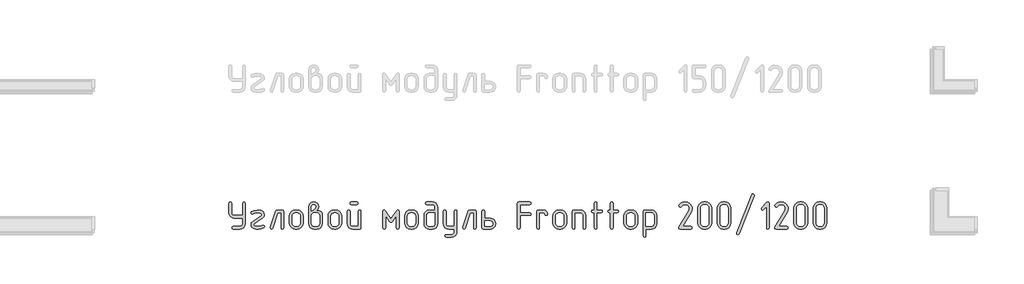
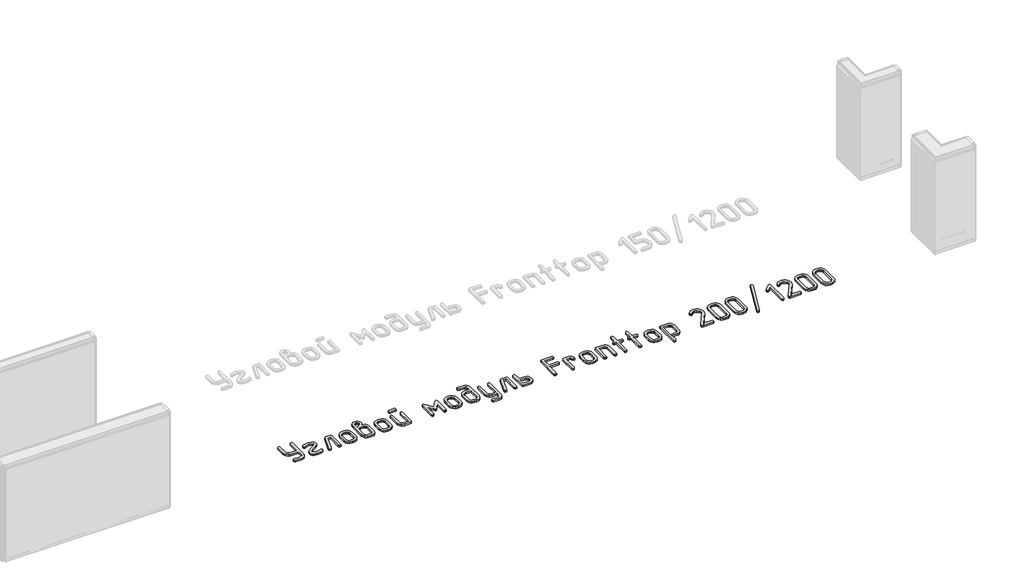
# One storey, part 23 of 37: 1 proxy.
"""IFC4 building model written with IfcOpenShell, lengths in millimetres."""

from ifc_helpers import new_model, si_unit, origin, origin_with_axes, place, context, project, spatial, polyline, outline, extrude, element, save

model = new_model("IFC4")

# Units and contexts
model_context = context("Model", 3, world=origin())
ifc_project = project(units=[si_unit("LENGTHUNIT", "METRE", prefix="MILLI")], contexts=[model_context])

# Site, building, storey
site = spatial("IfcSite", under=ifc_project)
building = spatial("IfcBuilding", under=site)
storey = spatial("IfcBuildingStorey", under=building, Name="Этаж 01", Elevation=0.0)

# Proxy
placement = place(None, origin())
element("IfcBuildingElementProxy", 1, Name="300 мм ГОСТ 2.304", ObjectType="300 мм ГОСТ 2.304", at=placement, inside=storey, context=model_context, shape_type="SweptSolid", body=[
    extrude(outline(polyline([(64282.5947081, -35608.7261154), (64192.9398643, -35608.7261154), (64169.869135, -35604.3522505), (64150.5152523, -35591.2306559), (64137.3936577, -35571.8767732), (64133.0197928, -35548.8060439), (64133.0197928, -35444.2838139), (64137.4124296, -35433.1332743), (64148.3377058, -35428.9659009), (64158.6247356, -35432.9080109), (64163.205092, -35444.2838139), (64163.205092, -35548.8060439), (64165.3357086, -35560.4540402), (64171.7275583, -35570.0183499), (64181.2918679, -35576.4101996), (64192.9398643, -35578.5408162), (64282.5947081, -35578.5408162), (64282.5947081, -35444.2838139), (64286.949801, -35433.1332743), (64297.4620942, -35428.9659009), (64307.9368436, -35432.9080109), (64312.3294804, -35444.2838139), (64312.3294804, -35668.19566), (64307.9556155, -35691.6042844), (64294.8340209, -35711.0707988), (64275.8180333, -35723.8544983), (64252.8599358, -35728.1157314), (64178.0724781, -35728.1157314), (64167.147202, -35723.7606385), (64163.205092, -35713.2483453), (64166.9219385, -35702.736052), (64178.0724781, -35698.3809591), (64252.8599358, -35698.3809591), (64264.2263528, -35696.1940267), (64273.8469783, -35689.6332294), (64280.4077756, -35679.8999722), (64282.5947081, -35668.19566), (64282.5947081, -35608.7261154)])), origin_with_axes(), (0.0, 0.0, 1.0), 20.0),
    extrude(outline(polyline([(64514.9914765, -35714.524838), (64485.4444237, -35725.0746752), (64451.6173658, -35728.5662583), (64430.8180428, -35727.4774851), (64413.0973199, -35724.5866044), (64396.8408093, -35719.4524755), (64384.8643037, -35709.3062353), (64377.4869265, -35695.6496401), (64375.0278008, -35679.984446), (64378.9699108, -35660.7619669), (64391.2467675, -35644.618088), (64486.5331969, -35578.991343), (64491.4139045, -35569.8306304), (64487.5844263, -35560.4071103), (64476.0959915, -35554.0621905), (64442.3815653, -35549.7070976), (64416.2510079, -35552.4290307), (64397.32888, -35560.5948299), (64388.1681673, -35564.1239569), (64377.693418, -35559.5436005), (64373.3007812, -35548.355517), (64379.4579815, -35537.0172579), (64408.0664367, -35524.777945), (64445.0096386, -35520.4228521), (64450.2657853, -35520.4228521), (64479.1370478, -35523.9144352), (64501.85111, -35533.7509382), (64516.7184961, -35549.0313073), (64521.9746427, -35568.9295767), (64517.7134096, -35586.6315276), (64504.9297101, -35602.193476), (64409.5681929, -35668.19566), (64404.3871341, -35679.6090069), (64408.1039806, -35689.8584928), (64417.9029396, -35695.7528858), (64434.3096259, -35697.5174493), (64451.9928049, -35698.3809591), (64478.4612575, -35696.2034127), (64501.0251441, -35687.8686659), (64508.4588371, -35686.1416463), (64519.1588499, -35690.7220026), (64523.3262233, -35701.9100861), (64521.2425366, -35709.1936036), (64514.9914765, -35714.524838)])), origin_with_axes(), (0.0, 0.0, 1.0), 20.0),
    extrude(outline(polyline([(64734.3229662, -35713.2483453), (64730.1555928, -35724.3988849), (64719.45558, -35728.1157314), (64708.9432868, -35724.1736215), (64704.5881939, -35713.2483453), (64704.5881939, -35548.8060439), (64670.0478018, -35548.8060439), (64614.0322964, -35718.0539651), (64608.5884303, -35725.4876581), (64600.5164908, -35728.1157314), (64589.7789341, -35724.1736215), (64585.1985778, -35713.6988721), (64586.0996315, -35708.4427255), (64645.1186493, -35529.133038), (64650.4498837, -35521.5867132), (64659.5355086, -35519.0712716), (64719.45558, -35519.0712716), (64730.6061197, -35522.7881181), (64734.3229662, -35533.9386577), (64734.3229662, -35713.2483453)])), origin_with_axes(), (0.0, 0.0, 1.0), 20.0),
    extrude(outline(polyline([(64945.7702359, -35662.4889865), (64940.9646162, -35687.9812976), (64926.5477569, -35709.3437792), (64905.5231704, -35723.4227434), (64880.143491, -35728.1157314), (64862.1975047, -35728.1157314), (64836.7615094, -35723.4227434), (64815.4177998, -35709.3437792), (64801.0009405, -35687.9812976), (64796.1953207, -35662.4889865), (64796.1953207, -35584.6980165), (64801.0009405, -35559.5436005), (64815.4177998, -35538.2937506), (64837.1744924, -35523.8768913), (64862.1975047, -35519.0712716), (64880.143491, -35519.0712716), (64905.288521, -35523.8862773), (64926.510213, -35538.3312945), (64940.9552302, -35559.5529865), (64945.7702359, -35584.6980165), (64945.7702359, -35662.4889865)]), holes=[polyline([(64916.0354636, -35662.4889865), (64916.0354636, -35584.6980165), (64913.4073903, -35570.9194036), (64905.5231704, -35559.3183371), (64893.9221039, -35551.4341172), (64880.143491, -35548.8060439), (64862.1975047, -35548.8060439), (64848.4282777, -35551.4341172), (64836.8553692, -35559.3183371), (64828.9993072, -35570.9194036), (64826.3806199, -35584.6980165), (64826.3806199, -35662.4889865), (64828.9993072, -35676.2675994), (64836.8553692, -35687.8686659), (64848.4282777, -35695.7528858), (64862.1975047, -35698.3809591), (64880.143491, -35698.3809591), (64893.9221039, -35695.7528858), (64905.5231704, -35687.8686659), (64913.4073903, -35676.2675994), (64916.0354636, -35662.4889865)])]), origin_with_axes(), (0.0, 0.0, 1.0), 20.0),
    extrude(outline(polyline([(65097.2974342, -35519.9723253), (65122.7897453, -35524.2335584), (65142.3501195, -35537.0172579), (65153.5006592, -35555.057104), (65157.2175057, -35578.5408162), (65157.2175057, -35668.19566), (65152.8436408, -35691.6042844), (65139.7220462, -35711.0707988), (65120.5934269, -35723.8544983), (65097.2974342, -35728.1157314), (65067.5626619, -35728.1157314), (65044.4919326, -35723.8544983), (65025.1380499, -35711.0707988), (65012.0164553, -35691.6042844), (65007.6425905, -35668.19566), (65007.6425905, -35483.2543867), (65011.9038236, -35460.3901489), (65024.6875231, -35442.5567943), (65041.4133325, -35432.3636243), (65061.8559884, -35428.9659009), (65081.9607493, -35432.3636243), (65098.573927, -35442.5567943), (65111.0760472, -35460.2775172), (65115.2434206, -35482.8038599), (65111.0760472, -35504.8421318), (65097.2974342, -35519.9723253)]), holes=[polyline([(65127.4827334, -35668.19566), (65127.4827334, -35578.5408162), (65125.295801, -35567.1743991), (65118.7350037, -35557.5537736), (65109.0017464, -35550.9929763), (65097.2974342, -35548.8060439), (65067.5626619, -35548.8060439), (65055.9146656, -35550.9929763), (65046.3503559, -35557.5537736), (65039.9585062, -35567.1743991), (65037.8278896, -35578.5408162), (65037.8278896, -35668.19566), (65039.9585062, -35679.8999722), (65046.3503559, -35689.6332294), (65055.9146656, -35696.1940267), (65067.5626619, -35698.3809591), (65097.2974342, -35698.3809591), (65109.0017464, -35696.1940267), (65118.7350037, -35689.6332294), (65125.295801, -35679.8999722), (65127.4827334, -35668.19566)]), polyline([(65037.8278896, -35529.133038), (65044.8110558, -35525.0032085), (65050.0672025, -35521.248818), (65060.1289688, -35514.0403884), (65067.5626619, -35508.5589783), (65079.8019748, -35497.671246), (65085.5086482, -35483.2543867), (65083.7065408, -35473.1644624), (65078.3002186, -35465.7213834), (65070.4723145, -35461.1316411), (65061.4054616, -35459.601727), (65052.4512404, -35461.1316411), (65044.8110558, -35465.7213834), (65039.5736812, -35473.1644624), (65037.8278896, -35483.2543867), (65037.8278896, -35529.133038)])]), origin_with_axes(), (0.0, 0.0, 1.0), 20.0),
    extrude(outline(polyline([(65368.6647755, -35662.4889865), (65363.8591557, -35687.9812976), (65349.4422964, -35709.3437792), (65328.4177099, -35723.4227434), (65303.0380305, -35728.1157314), (65285.0920442, -35728.1157314), (65259.6560489, -35723.4227434), (65238.3123393, -35709.3437792), (65223.89548, -35687.9812976), (65219.0898602, -35662.4889865), (65219.0898602, -35584.6980165), (65223.89548, -35559.5436005), (65238.3123393, -35538.2937506), (65260.0690319, -35523.8768913), (65285.0920442, -35519.0712716), (65303.0380305, -35519.0712716), (65328.1830605, -35523.8862773), (65349.4047525, -35538.3312945), (65363.8497697, -35559.5529865), (65368.6647755, -35584.6980165), (65368.6647755, -35662.4889865)]), holes=[polyline([(65338.9300032, -35662.4889865), (65338.9300032, -35584.6980165), (65336.3019298, -35570.9194036), (65328.4177099, -35559.3183371), (65316.8166434, -35551.4341172), (65303.0380305, -35548.8060439), (65285.0920442, -35548.8060439), (65271.3228172, -35551.4341172), (65259.7499087, -35559.3183371), (65251.8938467, -35570.9194036), (65249.2751594, -35584.6980165), (65249.2751594, -35662.4889865), (65251.8938467, -35676.2675994), (65259.7499087, -35687.8686659), (65271.3228172, -35695.7528858), (65285.0920442, -35698.3809591), (65303.0380305, -35698.3809591), (65316.8166434, -35695.7528858), (65328.4177099, -35687.8686659), (65336.3019298, -35676.2675994), (65338.9300032, -35662.4889865)])]), origin_with_axes(), (0.0, 0.0, 1.0), 20.0),
    extrude(outline(polyline([(65535.5098868, -35459.1512001), (65475.5898153, -35459.1512001), (65464.6645391, -35454.7961072), (65460.7224291, -35444.2838139), (65464.4392757, -35433.5838012), (65475.5898153, -35428.9659009), (65535.5098868, -35428.9659009), (65546.6604264, -35433.3585378), (65550.3772729, -35444.2838139), (65546.4351629, -35454.5708438), (65535.5098868, -35459.1512001)])), origin_with_axes(), (0.0, 0.0, 1.0), 20.0),
    extrude(outline(polyline([(65580.1120452, -35713.2483453), (65576.3951987, -35724.3988849), (65565.2446591, -35728.1157314), (65490.4572014, -35728.1157314), (65467.3864722, -35723.8544983), (65448.0325894, -35711.0707988), (65434.9109948, -35691.6042844), (65430.53713, -35668.19566), (65430.53713, -35533.9386577), (65434.9297668, -35523.0133815), (65445.855043, -35519.0712716), (65456.1420728, -35522.7881181), (65460.7224291, -35533.9386577), (65460.7224291, -35668.19566), (65462.8530457, -35679.8999722), (65469.2448954, -35689.6332294), (65478.8092051, -35696.1940267), (65490.4572014, -35698.3809591), (65550.3772729, -35698.3809591), (65550.3772729, -35533.9386577), (65554.7323658, -35523.0133815), (65565.2446591, -35519.0712716), (65575.7194084, -35522.7881181), (65580.1120452, -35533.9386577), (65580.1120452, -35713.2483453)])), origin_with_axes(), (0.0, 0.0, 1.0), 20.0),
    extrude(outline(polyline([(65999.1020187, -35713.2483453), (65994.7093818, -35724.1736215), (65984.2346325, -35728.1157314), (65973.4970758, -35724.3988849), (65969.3672464, -35713.2483453), (65969.3672464, -35580.2678358), (65921.6864877, -35647.2461613), (65915.5480594, -35653.1030104), (65909.4471749, -35655.0552934), (65903.121027, -35653.1030104), (65897.207862, -35647.2461613), (65849.9776303, -35580.2678358), (65849.9776303, -35713.2483453), (65845.3972739, -35724.1736215), (65835.1102441, -35728.1157314), (65823.9597045, -35724.3988849), (65819.7923311, -35713.2483453), (65819.7923311, -35533.9386577), (65823.5091776, -35521.0235546), (65832.9326977, -35516.4431983), (65840.666742, -35518.6395167), (65847.349557, -35525.2284719), (65909.4471749, -35612.6306814), (65971.9953197, -35525.2284719), (65978.7532225, -35518.6395167), (65985.9616521, -35516.4431983), (65995.3851721, -35521.0235546), (65999.1020187, -35533.9386577), (65999.1020187, -35713.2483453)])), origin_with_axes(), (0.0, 0.0, 1.0), 20.0),
    extrude(outline(polyline([(66209.6482347, -35662.4889865), (66204.8426149, -35687.9812976), (66190.4257556, -35709.3437792), (66169.4011692, -35723.4227434), (66144.0214898, -35728.1157314), (66126.0755035, -35728.1157314), (66100.6395082, -35723.4227434), (66079.2957985, -35709.3437792), (66064.8789392, -35687.9812976), (66060.0733195, -35662.4889865), (66060.0733195, -35584.6980165), (66064.8789392, -35559.5436005), (66079.2957985, -35538.2937506), (66101.0524911, -35523.8768913), (66126.0755035, -35519.0712716), (66144.0214898, -35519.0712716), (66169.1665198, -35523.8862773), (66190.3882117, -35538.3312945), (66204.833229, -35559.5529865), (66209.6482347, -35584.6980165), (66209.6482347, -35662.4889865)]), holes=[polyline([(66179.9134624, -35662.4889865), (66179.9134624, -35584.6980165), (66177.2853891, -35570.9194036), (66169.4011692, -35559.3183371), (66157.8001027, -35551.4341172), (66144.0214898, -35548.8060439), (66126.0755035, -35548.8060439), (66112.3062765, -35551.4341172), (66100.733368, -35559.3183371), (66092.877306, -35570.9194036), (66090.2586186, -35584.6980165), (66090.2586186, -35662.4889865), (66092.877306, -35676.2675994), (66100.733368, -35687.8686659), (66112.3062765, -35695.7528858), (66126.0755035, -35698.3809591), (66144.0214898, -35698.3809591), (66157.8001027, -35695.7528858), (66169.4011692, -35687.8686659), (66177.2853891, -35676.2675994), (66179.9134624, -35662.4889865)])]), origin_with_axes(), (0.0, 0.0, 1.0), 20.0),
    extrude(outline(polyline([(66391.3607322, -35519.0712716), (66391.3607322, -35488.8859724), (66389.1737997, -35477.2379761), (66382.6130024, -35467.6736664), (66372.8797452, -35461.2818167), (66361.175433, -35459.1512001), (66301.7058884, -35459.1512001), (66290.7806122, -35454.7961072), (66286.8385022, -35444.2838139), (66290.5553488, -35433.5838012), (66301.7058884, -35428.9659009), (66361.175433, -35428.9659009), (66384.4714257, -35433.3397658), (66403.600045, -35446.4613604), (66416.7216396, -35465.8152431), (66421.0955045, -35488.8859724), (66421.0955045, -35668.19566), (66416.7216396, -35691.6042844), (66403.600045, -35711.0707988), (66384.4714257, -35723.8544983), (66361.175433, -35728.1157314), (66331.4406607, -35728.1157314), (66308.3699314, -35723.8544983), (66289.0160487, -35711.0707988), (66275.8944541, -35691.6042844), (66271.5205892, -35668.19566), (66271.5205892, -35578.5408162), (66275.8944541, -35555.8079821), (66289.0160487, -35536.566731), (66308.3699314, -35523.4451364), (66331.4406607, -35519.0712716), (66391.3607322, -35519.0712716)]), holes=[polyline([(66391.3607322, -35548.8060439), (66331.4406607, -35548.8060439), (66319.7926643, -35550.9929763), (66310.2283547, -35557.5537736), (66303.836505, -35567.1743991), (66301.7058884, -35578.5408162), (66301.7058884, -35668.19566), (66303.836505, -35679.8999722), (66310.2283547, -35689.6332294), (66319.7926643, -35696.1940267), (66331.4406607, -35698.3809591), (66361.175433, -35698.3809591), (66372.8797452, -35696.1940267), (66382.6130024, -35689.6332294), (66389.1737997, -35679.8999722), (66391.3607322, -35668.19566), (66391.3607322, -35548.8060439)])]), origin_with_axes(), (0.0, 0.0, 1.0), 20.0),
    extrude(outline(polyline([(66602.8080019, -35728.1157314), (66542.8879304, -35728.1157314), (66519.8172012, -35723.8544983), (66500.4633184, -35711.0707988), (66487.3417238, -35691.6042844), (66482.967859, -35668.19566), (66482.967859, -35533.9386577), (66487.3604958, -35523.0133815), (66498.285772, -35519.0712716), (66508.5728018, -35522.7881181), (66513.1531581, -35533.9386577), (66513.1531581, -35668.19566), (66515.2837747, -35679.8999722), (66521.6756244, -35689.6332294), (66531.2399341, -35696.1940267), (66542.8879304, -35698.3809591), (66602.8080019, -35698.3809591), (66602.8080019, -35533.9386577), (66607.1630948, -35523.0133815), (66617.6753881, -35519.0712716), (66628.1501374, -35522.7881181), (66632.5427742, -35533.9386577), (66632.5427742, -35757.8505038), (66628.2815411, -35781.1464965), (66615.4978416, -35800.2751158), (66596.0313272, -35813.3967104), (66572.6227028, -35817.7705752), (66513.1531581, -35817.7705752), (66502.2278819, -35813.3779384), (66498.285772, -35802.9031891), (66502.0026185, -35792.3908958), (66513.1531581, -35788.0358029), (66572.6227028, -35788.0358029), (66584.327015, -35785.8488705), (66594.0602722, -35779.2880732), (66600.6210695, -35769.554816), (66602.8080019, -35757.8505038), (66602.8080019, -35728.1157314)])), origin_with_axes(), (0.0, 0.0, 1.0), 20.0),
    extrude(outline(polyline([(66843.990044, -35713.2483453), (66839.8226706, -35724.3988849), (66829.1226578, -35728.1157314), (66818.6103646, -35724.1736215), (66814.2552717, -35713.2483453), (66814.2552717, -35548.8060439), (66779.7148796, -35548.8060439), (66723.6993742, -35718.0539651), (66718.255508, -35725.4876581), (66710.1835686, -35728.1157314), (66699.4460119, -35724.1736215), (66694.8656556, -35713.6988721), (66695.7667093, -35708.4427255), (66754.7857271, -35529.133038), (66760.1169615, -35521.5867132), (66769.2025864, -35519.0712716), (66829.1226578, -35519.0712716), (66840.2731974, -35522.7881181), (66843.990044, -35533.9386577), (66843.990044, -35713.2483453)])), origin_with_axes(), (0.0, 0.0, 1.0), 20.0),
    extrude(outline(polyline([(66936.0476976, -35608.7261154), (66995.5172423, -35608.7261154), (67021.0095534, -35613.3252436), (67040.5699276, -35627.1226285), (67051.7204672, -35645.4628258), (67055.4373137, -35668.19566), (67051.8330989, -35690.9472661), (67041.0204544, -35709.3437792), (67021.1221851, -35723.4227434), (66995.5172423, -35728.1157314), (66921.1803115, -35728.1157314), (66909.6918767, -35724.3988849), (66905.8623985, -35713.2483453), (66905.8623985, -35533.9386577), (66910.2550353, -35523.0133815), (66921.1803115, -35519.0712716), (66931.4673413, -35522.7881181), (66936.0476976, -35533.9386577), (66936.0476976, -35608.7261154)]), holes=[polyline([(66936.0476976, -35638.4608877), (66936.0476976, -35698.3809591), (66995.5172423, -35698.3809591), (67008.3009417, -35696.1377108), (67017.8183215, -35689.407966), (67023.7314864, -35679.6183929), (67025.7025414, -35668.19566), (67023.8441182, -35657.1577521), (67018.2688483, -35647.6216003), (67008.6388369, -35640.7510658), (66995.5172423, -35638.4608877), (66936.0476976, -35638.4608877)])]), origin_with_axes(), (0.0, 0.0, 1.0), 20.0),
    extrude(outline(polyline([(67325.3028988, -35548.355517), (67429.8251287, -35548.355517), (67440.9756683, -35552.5228904), (67444.6925149, -35563.2229032), (67440.7504049, -35573.9604598), (67429.8251287, -35578.5408162), (67325.3028988, -35578.5408162), (67325.3028988, -35713.2483453), (67321.1355254, -35724.3988849), (67310.4355126, -35728.1157314), (67299.697956, -35724.1736215), (67295.1175996, -35713.2483453), (67295.1175996, -35444.2838139), (67298.9470779, -35432.7953792), (67310.4355126, -35428.9659009), (67429.8251287, -35428.9659009), (67440.9756683, -35433.3585378), (67444.6925149, -35444.2838139), (67440.7504049, -35454.5708438), (67429.8251287, -35459.1512001), (67325.3028988, -35459.1512001), (67325.3028988, -35548.355517)])), origin_with_axes(), (0.0, 0.0, 1.0), 20.0),
    extrude(outline(polyline([(67626.4050123, -35563.67343), (67622.2376389, -35574.8239697), (67611.5376262, -35578.5408162), (67600.8000695, -35574.5987062), (67596.2197132, -35563.67343), (67592.0523398, -35553.1986807), (67581.352327, -35548.8060439), (67536.7501685, -35548.8060439), (67536.7501685, -35713.2483453), (67532.5827951, -35724.3988849), (67521.8827824, -35728.1157314), (67511.1452257, -35724.1736215), (67506.5648694, -35713.2483453), (67506.5648694, -35533.9386577), (67510.3943476, -35522.7881181), (67521.8827824, -35519.0712716), (67581.352327, -35519.0712716), (67598.8477865, -35522.5628547), (67613.3021897, -35532.1740942), (67622.9134292, -35546.403234), (67626.4050123, -35563.67343)])), origin_with_axes(), (0.0, 0.0, 1.0), 20.0),
    extrude(outline(polyline([(67833.947716, -35662.4889865), (67829.1420963, -35687.9812976), (67814.7252369, -35709.3437792), (67793.7006505, -35723.4227434), (67768.3209711, -35728.1157314), (67750.3749848, -35728.1157314), (67724.9389895, -35723.4227434), (67703.5952798, -35709.3437792), (67689.1784205, -35687.9812976), (67684.3728008, -35662.4889865), (67684.3728008, -35584.6980165), (67689.1784205, -35559.5436005), (67703.5952798, -35538.2937506), (67725.3519725, -35523.8768913), (67750.3749848, -35519.0712716), (67768.3209711, -35519.0712716), (67793.4660011, -35523.8862773), (67814.687693, -35538.3312945), (67829.1327103, -35559.5529865), (67833.947716, -35584.6980165), (67833.947716, -35662.4889865)]), holes=[polyline([(67804.2129437, -35662.4889865), (67804.2129437, -35584.6980165), (67801.5848704, -35570.9194036), (67793.7006505, -35559.3183371), (67782.099584, -35551.4341172), (67768.3209711, -35548.8060439), (67750.3749848, -35548.8060439), (67736.6057578, -35551.4341172), (67725.0328493, -35559.3183371), (67717.1767873, -35570.9194036), (67714.5580999, -35584.6980165), (67714.5580999, -35662.4889865), (67717.1767873, -35676.2675994), (67725.0328493, -35687.8686659), (67736.6057578, -35695.7528858), (67750.3749848, -35698.3809591), (67768.3209711, -35698.3809591), (67782.099584, -35695.7528858), (67793.7006505, -35687.8686659), (67801.5848704, -35676.2675994), (67804.2129437, -35662.4889865)])]), origin_with_axes(), (0.0, 0.0, 1.0), 20.0),
    extrude(outline(polyline([(68045.3949858, -35713.2483453), (68041.2276124, -35724.3988849), (68030.5275996, -35728.1157314), (68020.0153064, -35724.1736215), (68015.6602135, -35713.2483453), (68015.6602135, -35578.5408162), (68013.473281, -35567.1743991), (68006.9124837, -35557.5537736), (67997.1792265, -35550.9929763), (67985.4749143, -35548.8060439), (67926.0053697, -35548.8060439), (67926.0053697, -35713.2483453), (67921.8379963, -35724.3988849), (67911.1379835, -35728.1157314), (67900.4004269, -35724.1736215), (67895.8200705, -35713.2483453), (67895.8200705, -35533.9386577), (67899.6495488, -35522.7881181), (67911.1379835, -35519.0712716), (67985.4749143, -35519.0712716), (68008.770907, -35523.3325047), (68027.8995263, -35536.1162042), (68041.0211209, -35555.4700869), (68045.3949858, -35578.5408162), (68045.3949858, -35713.2483453)])), origin_with_axes(), (0.0, 0.0, 1.0), 20.0),
    extrude(outline(polyline([(68167.1874117, -35519.0712716), (68212.2400971, -35519.0712716), (68223.3906367, -35523.238645), (68227.1074832, -35533.9386577), (68223.1653733, -35544.2256875), (68212.2400971, -35548.8060439), (68167.1874117, -35548.8060439), (68167.1874117, -35713.2483453), (68163.0200384, -35724.3988849), (68152.3200256, -35728.1157314), (68141.8077324, -35724.1736215), (68137.4526394, -35713.2483453), (68137.4526394, -35548.8060439), (68122.5852533, -35548.8060439), (68111.4347137, -35544.450951), (68107.2673403, -35533.9386577), (68111.2094502, -35523.4639084), (68122.5852533, -35519.0712716), (68137.4526394, -35519.0712716), (68137.4526394, -35444.2838139), (68141.8077324, -35433.1332743), (68152.3200256, -35428.9659009), (68162.7947749, -35432.9080109), (68167.1874117, -35444.2838139), (68167.1874117, -35519.0712716)])), origin_with_axes(), (0.0, 0.0, 1.0), 20.0),
    extrude(outline(polyline([(68344.9953431, -35519.0712716), (68390.0480284, -35519.0712716), (68401.1985681, -35523.238645), (68404.9154146, -35533.9386577), (68400.9733046, -35544.2256875), (68390.0480284, -35548.8060439), (68344.9953431, -35548.8060439), (68344.9953431, -35713.2483453), (68340.8279697, -35724.3988849), (68330.127957, -35728.1157314), (68319.6156637, -35724.1736215), (68315.2605708, -35713.2483453), (68315.2605708, -35548.8060439), (68300.3931847, -35548.8060439), (68289.2426451, -35544.450951), (68285.0752717, -35533.9386577), (68289.0173816, -35523.4639084), (68300.3931847, -35519.0712716), (68315.2605708, -35519.0712716), (68315.2605708, -35444.2838139), (68319.6156637, -35433.1332743), (68330.127957, -35428.9659009), (68340.6027063, -35432.9080109), (68344.9953431, -35444.2838139), (68344.9953431, -35519.0712716)])), origin_with_axes(), (0.0, 0.0, 1.0), 20.0),
    extrude(outline(polyline([(68612.4581183, -35662.4889865), (68607.6524985, -35687.9812976), (68593.2356392, -35709.3437792), (68572.2110527, -35723.4227434), (68546.8313734, -35728.1157314), (68528.885387, -35728.1157314), (68503.4493918, -35723.4227434), (68482.1056821, -35709.3437792), (68467.6888228, -35687.9812976), (68462.883203, -35662.4889865), (68462.883203, -35584.6980165), (68467.6888228, -35559.5436005), (68482.1056821, -35538.2937506), (68503.8623747, -35523.8768913), (68528.885387, -35519.0712716), (68546.8313734, -35519.0712716), (68571.9764033, -35523.8862773), (68593.1980953, -35538.3312945), (68607.6431126, -35559.5529865), (68612.4581183, -35584.6980165), (68612.4581183, -35662.4889865)]), holes=[polyline([(68582.723346, -35662.4889865), (68582.723346, -35584.6980165), (68580.0952727, -35570.9194036), (68572.2110527, -35559.3183371), (68560.6099863, -35551.4341172), (68546.8313734, -35548.8060439), (68528.885387, -35548.8060439), (68515.1161601, -35551.4341172), (68503.5432515, -35559.3183371), (68495.6871895, -35570.9194036), (68493.0685022, -35584.6980165), (68493.0685022, -35662.4889865), (68495.6871895, -35676.2675994), (68503.5432515, -35687.8686659), (68515.1161601, -35695.7528858), (68528.885387, -35698.3809591), (68546.8313734, -35698.3809591), (68560.6099863, -35695.7528858), (68572.2110527, -35687.8686659), (68580.0952727, -35676.2675994), (68582.723346, -35662.4889865)])]), origin_with_axes(), (0.0, 0.0, 1.0), 20.0),
    extrude(outline(polyline([(68704.515772, -35728.1157314), (68704.515772, -35802.9031891), (68700.3483986, -35814.0537287), (68689.6483858, -35817.7705752), (68678.9108291, -35813.8284653), (68674.3304728, -35802.9031891), (68674.3304728, -35533.9386577), (68678.1599511, -35522.7881181), (68689.6483858, -35519.0712716), (68763.9853166, -35519.0712716), (68787.2813093, -35523.3325047), (68806.4099286, -35536.1162042), (68819.5315232, -35555.4700869), (68823.9053881, -35578.5408162), (68823.9053881, -35668.19566), (68819.5315232, -35691.6042844), (68806.4099286, -35711.0707988), (68787.2813093, -35723.8544983), (68763.9853166, -35728.1157314), (68704.515772, -35728.1157314)]), holes=[polyline([(68704.515772, -35698.3809591), (68763.9853166, -35698.3809591), (68775.6896288, -35696.1940267), (68785.422886, -35689.6332294), (68791.9836833, -35679.8999722), (68794.1706157, -35668.19566), (68794.1706157, -35578.5408162), (68791.9836833, -35567.1743991), (68785.422886, -35557.5537736), (68775.6896288, -35550.9929763), (68763.9853166, -35548.8060439), (68704.515772, -35548.8060439), (68704.515772, -35698.3809591)])]), origin_with_axes(), (0.0, 0.0, 1.0), 20.0),
    extrude(outline(polyline([(69202.1977691, -35544.450951), (69105.5597591, -35698.3809591), (69198.293203, -35698.3809591), (69209.4437427, -35702.5483325), (69213.1605892, -35713.2483453), (69209.2184792, -35723.5353751), (69198.293203, -35728.1157314), (69078.9035869, -35728.1157314), (69066.7393619, -35725.1685349), (69062.6846202, -35716.3269455), (69066.2137473, -35704.9135985), (69176.4426507, -35529.133038), (69182.0742363, -35506.8319587), (69178.3573898, -35488.3603577), (69167.2068502, -35473.1926204), (69150.368409, -35462.6615552), (69130.4889116, -35459.1512001), (69118.7939854, -35460.6811142), (69108.1878324, -35465.2708565), (69091.1428998, -35481.9028062), (69086.1307886, -35487.1401809), (69078.9035869, -35488.8859724), (69068.3912937, -35484.7561429), (69063.5856739, -35474.4691131), (69066.2137473, -35466.1343663), (69078.2465686, -35451.1168046), (69093.3204463, -35439.2529308), (69110.3653789, -35431.5376584), (69128.3113652, -35428.9659009), (69160.3363157, -35434.8790659), (69187.3303829, -35452.6185607), (69205.6893522, -35477.9982401), (69210.2790945, -35492.3212397), (69211.8090086, -35507.7330124), (69209.4061988, -35526.5237366), (69202.1977691, -35544.450951)])), origin_with_axes(), (0.0, 0.0, 1.0), 20.0),
    extrude(outline(polyline([(69424.607859, -35662.4889865), (69419.8022392, -35687.9812976), (69405.3853799, -35709.3437792), (69384.3607934, -35723.4227434), (69358.981114, -35728.1157314), (69341.0351277, -35728.1157314), (69315.5991324, -35723.4227434), (69294.2554228, -35709.3437792), (69279.8385635, -35687.9812976), (69275.0329437, -35662.4889865), (69275.0329437, -35495.0431727), (69279.8385635, -35469.8887568), (69294.2554228, -35448.6389069), (69315.786852, -35433.8841524), (69341.0351277, -35428.9659009), (69358.981114, -35428.9659009), (69384.126144, -35433.7809067), (69405.347836, -35448.2259239), (69419.7928532, -35469.5602476), (69424.607859, -35495.0431727), (69424.607859, -35662.4889865)]), holes=[polyline([(69394.8730866, -35662.4889865), (69394.8730866, -35495.0431727), (69392.2450133, -35481.2645598), (69384.3607934, -35469.6634933), (69372.7597269, -35461.7792734), (69358.981114, -35459.1512001), (69341.0351277, -35459.1512001), (69327.2659007, -35461.7792734), (69315.6929922, -35469.6634933), (69307.8369302, -35481.2645598), (69305.2182429, -35495.0431727), (69305.2182429, -35662.4889865), (69307.8369302, -35676.2675994), (69315.6929922, -35687.8686659), (69327.2659007, -35695.7528858), (69341.0351277, -35698.3809591), (69358.981114, -35698.3809591), (69372.7597269, -35695.7528858), (69384.3607934, -35687.8686659), (69392.2450133, -35676.2675994), (69394.8730866, -35662.4889865)])]), origin_with_axes(), (0.0, 0.0, 1.0), 20.0),
    extrude(outline(polyline([(69636.0551287, -35662.4889865), (69631.2495089, -35687.9812976), (69616.8326496, -35709.3437792), (69595.8080632, -35723.4227434), (69570.4283838, -35728.1157314), (69552.4823974, -35728.1157314), (69527.0464022, -35723.4227434), (69505.7026925, -35709.3437792), (69491.2858332, -35687.9812976), (69486.4802135, -35662.4889865), (69486.4802135, -35495.0431727), (69491.2858332, -35469.8887568), (69505.7026925, -35448.6389069), (69527.2341217, -35433.8841524), (69552.4823974, -35428.9659009), (69570.4283838, -35428.9659009), (69595.5734138, -35433.7809067), (69616.7951057, -35448.2259239), (69631.240123, -35469.5602476), (69636.0551287, -35495.0431727), (69636.0551287, -35662.4889865)]), holes=[polyline([(69606.3203564, -35662.4889865), (69606.3203564, -35495.0431727), (69603.6922831, -35481.2645598), (69595.8080632, -35469.6634933), (69584.2069967, -35461.7792734), (69570.4283838, -35459.1512001), (69552.4823974, -35459.1512001), (69538.7131705, -35461.7792734), (69527.140262, -35469.6634933), (69519.2841999, -35481.2645598), (69516.6655126, -35495.0431727), (69516.6655126, -35662.4889865), (69519.2841999, -35676.2675994), (69527.140262, -35687.8686659), (69538.7131705, -35695.7528858), (69552.4823974, -35698.3809591), (69570.4283838, -35698.3809591), (69584.2069967, -35695.7528858), (69595.8080632, -35687.8686659), (69603.6922831, -35676.2675994), (69606.3203564, -35662.4889865)])]), origin_with_axes(), (0.0, 0.0, 1.0), 20.0),
    extrude(outline(polyline([(69891.6540301, -35359.8851168), (69727.2117287, -35778.4245634), (69721.5425991, -35785.4077296), (69713.6959231, -35788.0358029), (69702.733103, -35783.8684295), (69697.9274832, -35773.1684168), (69698.8285369, -35767.4617433), (69863.2708383, -35348.9973845), (69868.9399679, -35341.9391305), (69876.7866439, -35339.3110572), (69887.749464, -35343.703694), (69892.5550838, -35354.1784433), (69891.6540301, -35359.8851168)])), origin_with_axes(), (0.0, 0.0, 1.0), 20.0),
    extrude(outline(polyline([(70056.697034, -35713.2483453), (70052.5296606, -35724.3988849), (70041.8296478, -35728.1157314), (70031.542618, -35724.1736215), (70026.9622616, -35713.2483453), (70026.9622616, -35480.1757866), (69992.4218696, -35514.2656518), (69982.3601032, -35519.0712716), (69971.6225465, -35514.4909152), (69967.0421902, -35503.7533586), (69971.8478099, -35493.3161531), (70031.3173546, -35433.7715207), (70044.4577211, -35427.2388813), (70053.2054508, -35431.6315182), (70056.697034, -35444.2838139), (70056.697034, -35713.2483453)])), origin_with_axes(), (0.0, 0.0, 1.0), 20.0),
    extrude(outline(polyline([(70254.6284981, -35544.450951), (70157.9904881, -35698.3809591), (70250.7239321, -35698.3809591), (70261.8744717, -35702.5483325), (70265.5913182, -35713.2483453), (70261.6492082, -35723.5353751), (70250.7239321, -35728.1157314), (70131.334316, -35728.1157314), (70119.1700909, -35725.1685349), (70115.1153492, -35716.3269455), (70118.6444763, -35704.9135985), (70228.8733797, -35529.133038), (70234.5049653, -35506.8319587), (70230.7881188, -35488.3603577), (70219.6375792, -35473.1926204), (70202.799138, -35462.6615552), (70182.9196406, -35459.1512001), (70171.2247144, -35460.6811142), (70160.6185614, -35465.2708565), (70143.5736288, -35481.9028062), (70138.5615176, -35487.1401809), (70131.334316, -35488.8859724), (70120.8220227, -35484.7561429), (70116.016403, -35474.4691131), (70118.6444763, -35466.1343663), (70130.6772976, -35451.1168046), (70145.7511753, -35439.2529308), (70162.7961079, -35431.5376584), (70180.7420942, -35428.9659009), (70212.7670447, -35434.8790659), (70239.761112, -35452.6185607), (70258.1200812, -35477.9982401), (70262.7098235, -35492.3212397), (70264.2397376, -35507.7330124), (70261.8369278, -35526.5237366), (70254.6284981, -35544.450951)])), origin_with_axes(), (0.0, 0.0, 1.0), 20.0),
    extrude(outline(polyline([(70477.038588, -35662.4889865), (70472.2329682, -35687.9812976), (70457.8161089, -35709.3437792), (70436.7915224, -35723.4227434), (70411.411843, -35728.1157314), (70393.4658567, -35728.1157314), (70368.0298614, -35723.4227434), (70346.6861518, -35709.3437792), (70332.2692925, -35687.9812976), (70327.4636727, -35662.4889865), (70327.4636727, -35495.0431727), (70332.2692925, -35469.8887568), (70346.6861518, -35448.6389069), (70368.217581, -35433.8841524), (70393.4658567, -35428.9659009), (70411.411843, -35428.9659009), (70436.556873, -35433.7809067), (70457.778565, -35448.2259239), (70472.2235822, -35469.5602476), (70477.038588, -35495.0431727), (70477.038588, -35662.4889865)]), holes=[polyline([(70447.3038157, -35662.4889865), (70447.3038157, -35495.0431727), (70444.6757423, -35481.2645598), (70436.7915224, -35469.6634933), (70425.1904559, -35461.7792734), (70411.411843, -35459.1512001), (70393.4658567, -35459.1512001), (70379.6966297, -35461.7792734), (70368.1237212, -35469.6634933), (70360.2676592, -35481.2645598), (70357.6489719, -35495.0431727), (70357.6489719, -35662.4889865), (70360.2676592, -35676.2675994), (70368.1237212, -35687.8686659), (70379.6966297, -35695.7528858), (70393.4658567, -35698.3809591), (70411.411843, -35698.3809591), (70425.1904559, -35695.7528858), (70436.7915224, -35687.8686659), (70444.6757423, -35676.2675994), (70447.3038157, -35662.4889865)])]), origin_with_axes(), (0.0, 0.0, 1.0), 20.0),
    extrude(outline(polyline([(70688.4858577, -35662.4889865), (70683.6802379, -35687.9812976), (70669.2633786, -35709.3437792), (70648.2387922, -35723.4227434), (70622.8591128, -35728.1157314), (70604.9131265, -35728.1157314), (70579.4771312, -35723.4227434), (70558.1334215, -35709.3437792), (70543.7165622, -35687.9812976), (70538.9109425, -35662.4889865), (70538.9109425, -35495.0431727), (70543.7165622, -35469.8887568), (70558.1334215, -35448.6389069), (70579.6648507, -35433.8841524), (70604.9131265, -35428.9659009), (70622.8591128, -35428.9659009), (70648.0041428, -35433.7809067), (70669.2258347, -35448.2259239), (70683.670852, -35469.5602476), (70688.4858577, -35495.0431727), (70688.4858577, -35662.4889865)]), holes=[polyline([(70658.7510854, -35662.4889865), (70658.7510854, -35495.0431727), (70656.1230121, -35481.2645598), (70648.2387922, -35469.6634933), (70636.6377257, -35461.7792734), (70622.8591128, -35459.1512001), (70604.9131265, -35459.1512001), (70591.1438995, -35461.7792734), (70579.570991, -35469.6634933), (70571.714929, -35481.2645598), (70569.0962416, -35495.0431727), (70569.0962416, -35662.4889865), (70571.714929, -35676.2675994), (70579.570991, -35687.8686659), (70591.1438995, -35695.7528858), (70604.9131265, -35698.3809591), (70622.8591128, -35698.3809591), (70636.6377257, -35695.7528858), (70648.2387922, -35687.8686659), (70656.1230121, -35676.2675994), (70658.7510854, -35662.4889865)])]), origin_with_axes(), (0.0, 0.0, 1.0), 20.0),
])

save(model, "model.ifc")
